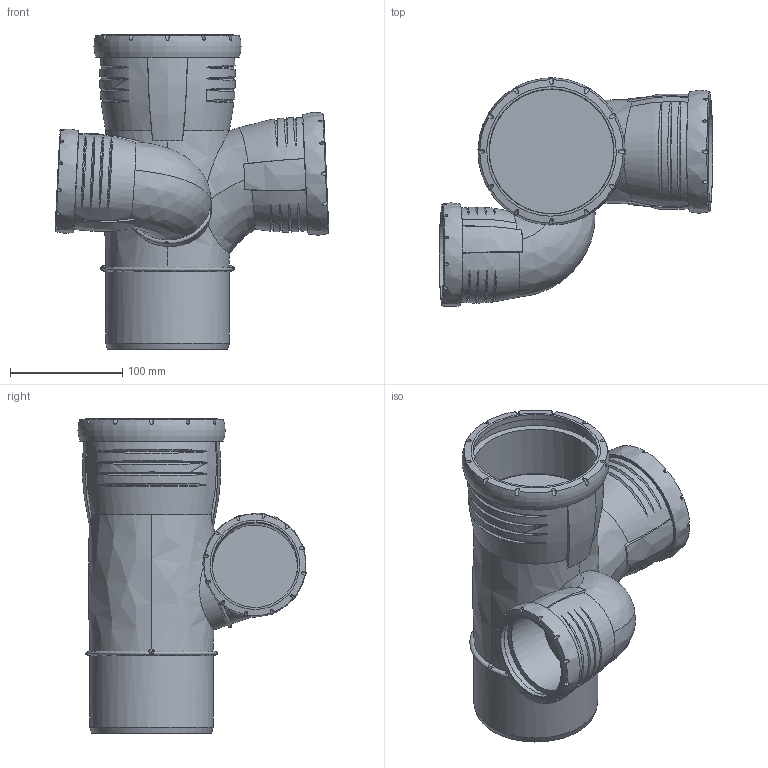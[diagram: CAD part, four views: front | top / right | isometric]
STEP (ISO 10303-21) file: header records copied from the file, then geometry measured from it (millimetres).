
FILE_DESCRIPTION(/* description */ (''),/* implementation_level */ '2;1');
FILE_NAME(/* name */ 'H:\Geberit-Teile\Export\393.553.14.1\stp\393553.stp',/* time_stamp */ '2018-02-21T10:26:58+01:00',/* author */ ('seihe2'),/* organization */ (''),/* preprocessor_version */ 'ST-DEVELOPER v15.2',/* originating_system */ 'Autodesk Inventor 2014',/* authorisation */ '');
FILE_SCHEMA (('AUTOMOTIVE_DESIGN { 1 0 10303 214 3 1 1 }'));
Length unit declared in the file: millimetre
Products named in the file (1): 393553
Bounding box: 243.28 x 202.96 x 279.9 mm (x, y, z)
Volume: 717283.2 mm3; surface area: 376586.3 mm2
Topology: 4 solids, 4 shells, 380 faces, 1021 edges, 632 vertices
Faces by surface type: bspline 238, cone 44, cylinder 31, plane 30, torus 25, sphere 12
Full cylindrical faces by diameter (mm): 75.9 x1, 76.2 x1, 85 x1, 90.632 x1, 90.9 x1, 91.2 x1, 100.2 x1, 101.2 x1, 110.2 x1, 110.732 x1, 111 x1, 111.3 x1, 121.5 x1
Entity records: 23263 total; most frequent: CARTESIAN_POINT 15251, ORIENTED_EDGE 1886, DIRECTION 1169, EDGE_CURVE 943, VERTEX_POINT 612, AXIS2_PLACEMENT_3D 521, B_SPLINE_CURVE_WITH_KNOTS 433, EDGE_LOOP 431
